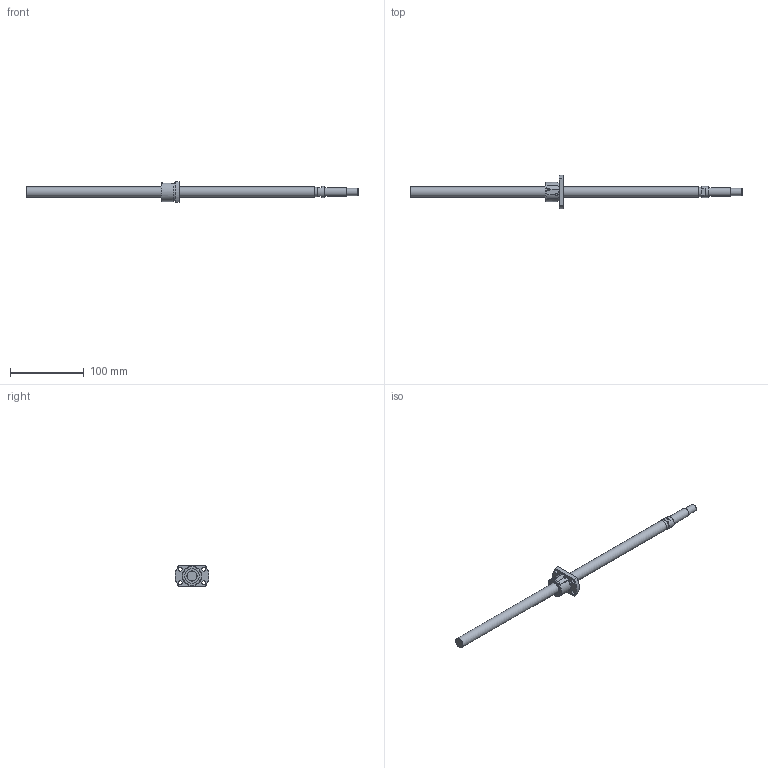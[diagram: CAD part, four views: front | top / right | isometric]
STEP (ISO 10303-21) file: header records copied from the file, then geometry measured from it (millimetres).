
FILE_DESCRIPTION(/* description */ ('STEP AP214'),/* implementation_level */ '2;1');
FILE_NAME(/* name */ 'SG1402-391R450C3A0X(183)',/* time_stamp */ '2026-07-24T21:00:30+02:00',/* author */ ('License CC BY-ND 4.0'),/* organization */ ('CADENAS'),/* preprocessor_version */ 'ST-DEVELOPER v20',/* originating_system */ 'PARTsolutions',/* authorisation */ ' ');
FILE_SCHEMA (('TECHNICAL_DATA_PACKAGING','MODEL_BASED_INTEGRATED_MANUFACTURING_SCHEMA','AP242_MANAGED_MODEL_BASED_3D_ENGINEERING_MIM_LF { 1 0 10303 442 3 1 4 }','AUTOMOTIVE_DESIGN {1 0 10303 214 3 1 1}'));
Length unit declared in the file: millimetre
Products named in the file (3): SG1402-391R450C3A0X(183); SG1402-391R450C3A_shaft; SG1402_nut
Assembly tree (2 placements, depth 2):
  SG1402-391R450C3A0X(183)
    SG1402-391R450C3A_shaft
    SG1402_nut
Bounding box: 450 x 46 x 28 mm (x, y, z)
Volume: 79190.5 mm3; surface area: 25606.5 mm2
Topology: 2 solids, 2 shells, 78 faces, 190 edges, 124 vertices
Faces by surface type: plane 38, cylinder 26, cone 13, torus 1
Full cylindrical faces by diameter (mm): 5.5 x4, 10 x1, 12 x1, 12.77 x1, 14 x2, 15 x1, 20 x2, 25.6 x1, 26 x1
Entity records: 2215 total; most frequent: CARTESIAN_POINT 411, DIRECTION 376, ORIENTED_EDGE 312, AXIS2_PLACEMENT_3D 157, EDGE_CURVE 156, EDGE_LOOP 120, FACE_BOUND 120, VERTEX_POINT 114
